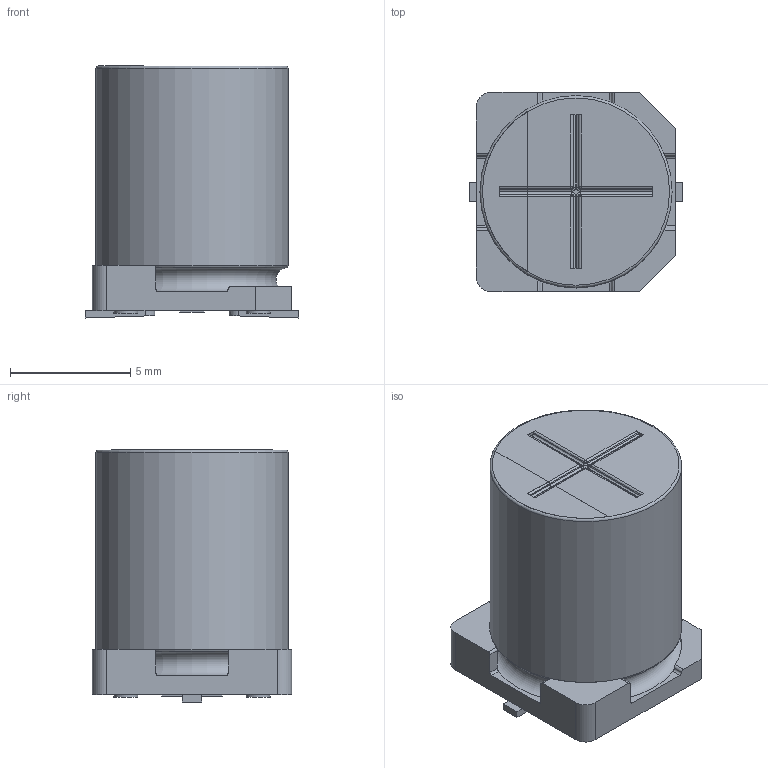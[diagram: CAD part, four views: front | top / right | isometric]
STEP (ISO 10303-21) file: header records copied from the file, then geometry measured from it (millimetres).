
FILE_DESCRIPTION(/* description */ (''),/* implementation_level */ '2;1');
FILE_NAME(/* name */ '8x10.5_Chip.stp',/* time_stamp */ '2017-09-11T19:24:46+09:00',/* author */ (''),/* organization */ (''),/* preprocessor_version */ 'ST-DEVELOPER v16',/* originating_system */ 'SIEMENS PLM Software NX 11.0',/* authorisation */ '');
FILE_SCHEMA (('AUTOMOTIVE_DESIGN { 1 0 10303 214 3 1 1 1 }'));
Length unit declared in the file: millimetre
Products named in the file (1): 8x10.5_Chip_0
Bounding box: 8.9 x 8.3 x 10.5 mm (x, y, z)
Volume: 527 mm3; surface area: 561.3 mm2
Topology: 5 solids, 5 shells, 132 faces, 330 edges, 210 vertices
Faces by surface type: plane 61, cylinder 60, sphere 4, bspline 4, torus 3
Full cylindrical faces by diameter (mm): 1 x4, 8 x1
Entity records: 4212 total; most frequent: CARTESIAN_POINT 919, DIRECTION 670, ORIENTED_EDGE 634, EDGE_CURVE 317, AXIS2_PLACEMENT_3D 240, VERTEX_POINT 209, LINE 190, VECTOR 190
